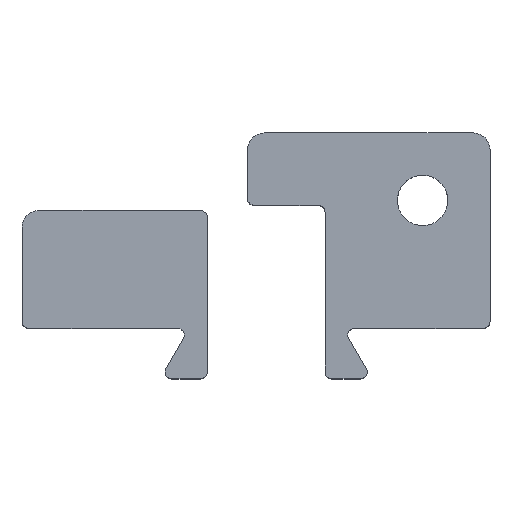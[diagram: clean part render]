
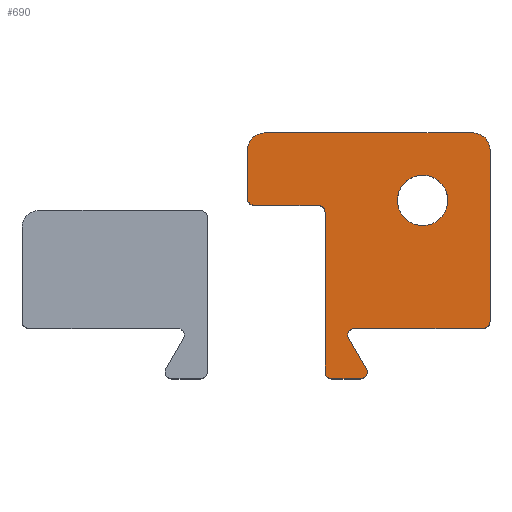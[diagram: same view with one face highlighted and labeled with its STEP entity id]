
A CAD part, top view. The second image highlights one B-rep face of the part: STEP entity #690.
In plain terms, the highlighted planar face has unit normal (0, 0, 1).
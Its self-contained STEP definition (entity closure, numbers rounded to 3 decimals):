
#137=CARTESIAN_POINT('',(7.3,10.2,8.0));
#138=VERTEX_POINT('',#137);
#139=CARTESIAN_POINT('',(5.8,10.2,8.0));
#140=DIRECTION('',(0.0,0.0,-1.0));
#141=DIRECTION('',(-1.0,0.0,0.0));
#142=AXIS2_PLACEMENT_3D('',#139,#140,#141);
#143=CIRCLE('',#142,1.5);
#144=EDGE_CURVE('',#138,#138,#143,.T.);
#154=CARTESIAN_POINT('',(9.8,3.,8.0));
#155=VERTEX_POINT('',#154);
#156=CARTESIAN_POINT('',(9.4,2.6,8.0));
#157=VERTEX_POINT('',#156);
#158=CARTESIAN_POINT('',(9.4,3.,8.0));
#159=DIRECTION('',(0.0,0.0,-1.0));
#160=DIRECTION('',(0.0,1.0,0.0));
#161=AXIS2_PLACEMENT_3D('',#158,#159,#160);
#162=CIRCLE('',#161,0.4);
#163=EDGE_CURVE('',#155,#157,#162,.T.);
#196=CARTESIAN_POINT('',(1.754,2.6,8.0));
#197=VERTEX_POINT('',#196);
#198=CARTESIAN_POINT('',(9.4,2.6,8.0));
#199=DIRECTION('',(-1.0,0.0,0.0));
#200=VECTOR('',#199,7.646);
#201=LINE('',#198,#200);
#202=EDGE_CURVE('',#157,#197,#201,.T.);
#227=CARTESIAN_POINT('',(1.407,2.,8.0));
#228=VERTEX_POINT('',#227);
#229=CARTESIAN_POINT('',(1.754,2.2,8.0));
#230=DIRECTION('',(0.0,0.0,1.0));
#231=DIRECTION('',(0.0,1.0,0.0));
#232=AXIS2_PLACEMENT_3D('',#229,#230,#231);
#233=CIRCLE('',#232,0.4);
#234=EDGE_CURVE('',#197,#228,#233,.T.);
#260=CARTESIAN_POINT('',(2.446,0.2,8.0));
#261=VERTEX_POINT('',#260);
#262=CARTESIAN_POINT('',(1.407,2.,8.0));
#263=DIRECTION('',(0.5,-0.866,0.0));
#264=VECTOR('',#263,2.078);
#265=LINE('',#262,#264);
#266=EDGE_CURVE('',#228,#261,#265,.T.);
#291=CARTESIAN_POINT('',(2.1,-0.4,8.0));
#292=VERTEX_POINT('',#291);
#293=CARTESIAN_POINT('',(2.1,0.0,8.0));
#294=DIRECTION('',(0.0,0.0,-1.0));
#295=DIRECTION('',(0.0,1.0,0.0));
#296=AXIS2_PLACEMENT_3D('',#293,#294,#295);
#297=CIRCLE('',#296,0.4);
#298=EDGE_CURVE('',#261,#292,#297,.T.);
#324=CARTESIAN_POINT('',(0.4,-0.4,8.0));
#325=VERTEX_POINT('',#324);
#326=CARTESIAN_POINT('',(2.1,-0.4,8.0));
#327=DIRECTION('',(-1.0,0.0,0.0));
#328=VECTOR('',#327,1.7);
#329=LINE('',#326,#328);
#330=EDGE_CURVE('',#292,#325,#329,.T.);
#355=CARTESIAN_POINT('',(0.0,0.0,8.0));
#356=VERTEX_POINT('',#355);
#357=CARTESIAN_POINT('',(0.4,0.0,8.0));
#358=DIRECTION('',(0.0,0.0,-1.0));
#359=DIRECTION('',(1.0,0.0,0.0));
#360=AXIS2_PLACEMENT_3D('',#357,#358,#359);
#361=CIRCLE('',#360,0.4);
#362=EDGE_CURVE('',#325,#356,#361,.T.);
#388=CARTESIAN_POINT('',(0.0,9.5,8.0));
#389=VERTEX_POINT('',#388);
#390=CARTESIAN_POINT('',(0.0,0.0,8.0));
#391=DIRECTION('',(0.0,1.0,0.0));
#392=VECTOR('',#391,9.5);
#393=LINE('',#390,#392);
#394=EDGE_CURVE('',#356,#389,#393,.T.);
#422=CARTESIAN_POINT('',(-0.4,9.9,8.0));
#423=VERTEX_POINT('',#422);
#424=CARTESIAN_POINT('',(-0.4,9.5,8.0));
#425=DIRECTION('',(0.0,0.0,1.0));
#426=DIRECTION('',(1.0,0.0,0.0));
#427=AXIS2_PLACEMENT_3D('',#424,#425,#426);
#428=CIRCLE('',#427,0.4);
#429=EDGE_CURVE('',#389,#423,#428,.T.);
#455=CARTESIAN_POINT('',(-4.2,9.9,8.0));
#456=VERTEX_POINT('',#455);
#457=CARTESIAN_POINT('',(-0.4,9.9,8.0));
#458=DIRECTION('',(-1.0,0.0,0.0));
#459=VECTOR('',#458,3.8);
#460=LINE('',#457,#459);
#461=EDGE_CURVE('',#423,#456,#460,.T.);
#486=CARTESIAN_POINT('',(-4.6,10.3,8.0));
#487=VERTEX_POINT('',#486);
#488=CARTESIAN_POINT('',(-4.2,10.3,8.0));
#489=DIRECTION('',(0.0,0.0,-1.0));
#490=DIRECTION('',(1.0,0.0,0.0));
#491=AXIS2_PLACEMENT_3D('',#488,#489,#490);
#492=CIRCLE('',#491,0.4);
#493=EDGE_CURVE('',#456,#487,#492,.T.);
#519=CARTESIAN_POINT('',(-4.6,13.2,8.0));
#520=VERTEX_POINT('',#519);
#521=CARTESIAN_POINT('',(-4.6,10.3,8.0));
#522=DIRECTION('',(0.0,1.0,0.0));
#523=VECTOR('',#522,2.9);
#524=LINE('',#521,#523);
#525=EDGE_CURVE('',#487,#520,#524,.T.);
#550=CARTESIAN_POINT('',(-3.6,14.2,8.0));
#551=VERTEX_POINT('',#550);
#552=CARTESIAN_POINT('',(-3.6,13.2,8.0));
#553=DIRECTION('',(0.0,0.0,-1.0));
#554=DIRECTION('',(0.0,-1.0,0.0));
#555=AXIS2_PLACEMENT_3D('',#552,#553,#554);
#556=CIRCLE('',#555,1.0);
#557=EDGE_CURVE('',#520,#551,#556,.T.);
#583=CARTESIAN_POINT('',(8.8,14.2,8.0));
#584=VERTEX_POINT('',#583);
#585=CARTESIAN_POINT('',(-3.6,14.2,8.0));
#586=DIRECTION('',(1.0,0.0,0.0));
#587=VECTOR('',#586,12.4);
#588=LINE('',#585,#587);
#589=EDGE_CURVE('',#551,#584,#588,.T.);
#614=CARTESIAN_POINT('',(9.8,13.2,8.0));
#615=VERTEX_POINT('',#614);
#616=CARTESIAN_POINT('',(8.8,13.2,8.0));
#617=DIRECTION('',(0.0,0.0,-1.0));
#618=DIRECTION('',(-1.0,0.0,0.0));
#619=AXIS2_PLACEMENT_3D('',#616,#617,#618);
#620=CIRCLE('',#619,1.0);
#621=EDGE_CURVE('',#584,#615,#620,.T.);
#647=CARTESIAN_POINT('',(9.8,13.2,8.0));
#648=DIRECTION('',(0.0,-1.0,0.0));
#649=VECTOR('',#648,10.2);
#650=LINE('',#647,#649);
#651=EDGE_CURVE('',#615,#155,#650,.T.);
#664=CARTESIAN_POINT('',(3.015,7.928,8.0));
#665=DIRECTION('',(0.0,0.0,1.0));
#666=DIRECTION('',(1.0,0.0,0.0));
#667=AXIS2_PLACEMENT_3D('',#664,#665,#666);
#668=PLANE('',#667);
#669=ORIENTED_EDGE('',*,*,#163,.F.);
#670=ORIENTED_EDGE('',*,*,#651,.F.);
#671=ORIENTED_EDGE('',*,*,#621,.F.);
#672=ORIENTED_EDGE('',*,*,#589,.F.);
#673=ORIENTED_EDGE('',*,*,#557,.F.);
#674=ORIENTED_EDGE('',*,*,#525,.F.);
#675=ORIENTED_EDGE('',*,*,#493,.F.);
#676=ORIENTED_EDGE('',*,*,#461,.F.);
#677=ORIENTED_EDGE('',*,*,#429,.F.);
#678=ORIENTED_EDGE('',*,*,#394,.F.);
#679=ORIENTED_EDGE('',*,*,#362,.F.);
#680=ORIENTED_EDGE('',*,*,#330,.F.);
#681=ORIENTED_EDGE('',*,*,#298,.F.);
#682=ORIENTED_EDGE('',*,*,#266,.F.);
#683=ORIENTED_EDGE('',*,*,#234,.F.);
#684=ORIENTED_EDGE('',*,*,#202,.F.);
#685=EDGE_LOOP('',(#669,#670,#671,#672,#673,#674,#675,#676,#677,#678,#679,#680,#681,#682,#683,#684));
#686=FACE_OUTER_BOUND('',#685,.T.);
#687=ORIENTED_EDGE('',*,*,#144,.T.);
#688=EDGE_LOOP('',(#687));
#689=FACE_BOUND('',#688,.T.);
#690=ADVANCED_FACE('',(#686,#689),#668,.T.);
